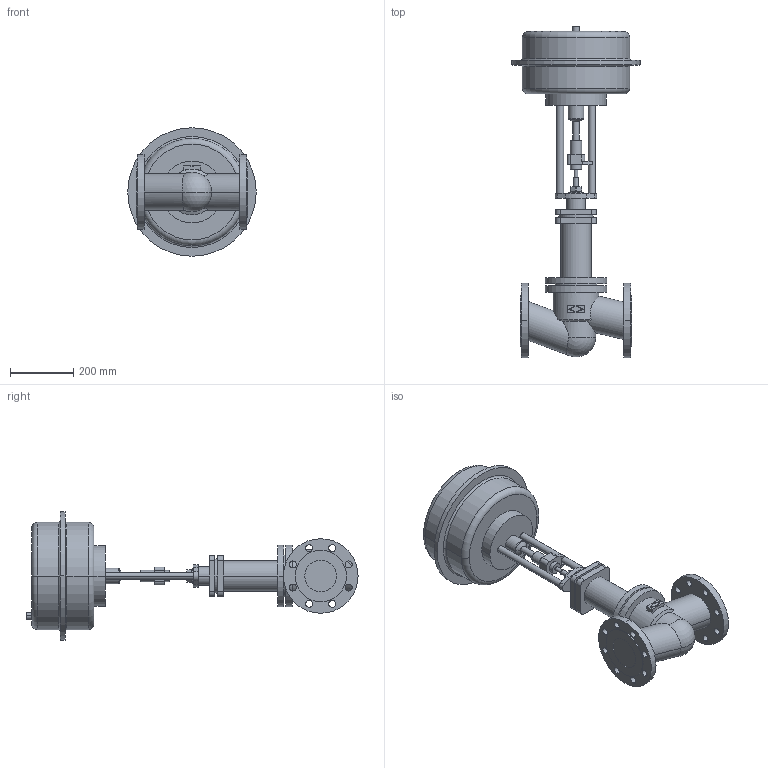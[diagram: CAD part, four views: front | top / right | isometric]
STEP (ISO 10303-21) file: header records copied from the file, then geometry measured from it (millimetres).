
FILE_DESCRIPTION(('OneSpaceDesigner STEP Export'),'2;1');
FILE_NAME('c000002094.stp','2005-12-12T11:51:59',(''),(''),'OneSpace Designer STEP processor for AP203 (Solid Model)','OneSpace Designer 13.20A 18-Aug-2005 (C) CoCreate Software GmbH','');
FILE_SCHEMA(('CONFIG_CONTROL_DESIGN'));
Length unit declared in the file: millimetre
Products named in the file (1): 1
Bounding box: 405 x 1046.7 x 405 mm (x, y, z)
Volume: 29439015.3 mm3; surface area: 1105607.5 mm2
Topology: 1 solids, 1 shells, 209 faces, 518 edges, 341 vertices
Faces by surface type: cylinder 116, plane 77, torus 10, cone 4, sphere 2
Entity records: 5944 total; most frequent: CARTESIAN_POINT 1216, ORIENTED_EDGE 1032, DIRECTION 867, EDGE_CURVE 516, VERTEX_POINT 341, AXIS2_PLACEMENT_3D 313, EDGE_LOOP 277, VECTOR 241
